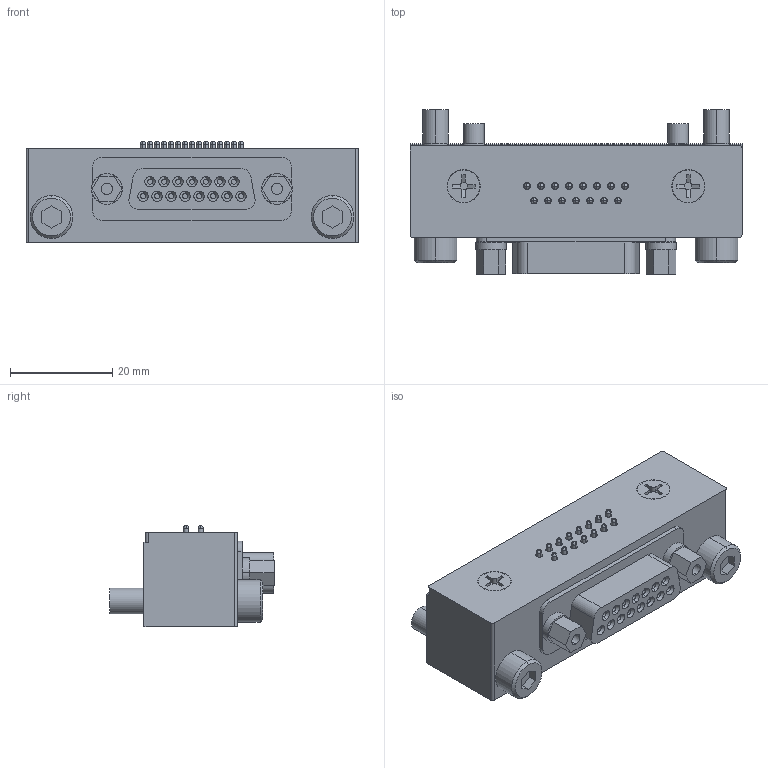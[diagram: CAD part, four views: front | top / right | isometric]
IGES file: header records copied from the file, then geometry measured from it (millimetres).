
Start section: 3D InterOp IGES (v. 2022 1.0.0), Spatial Corp. Copyright (c) 1999-2020.
Global section: file name: KHB-45~300HS-D315C_ver1.igs; native system: Spatial Corp.; preprocessor: 3D InterOp GENERIC/IGES 3.0; author: Noname; organization: Noname; date: 20260427.164720; units: millimetre
Bounding box: 65 x 32.2 x 19.8 mm (x, y, z)
Surface area: 9059.3 mm2 (no closed solid volume)
Topology: 0 solids, 0 shells, 453 faces, 2116 edges, 2056 vertices
Faces by surface type: revolution 277, extrusion 176
